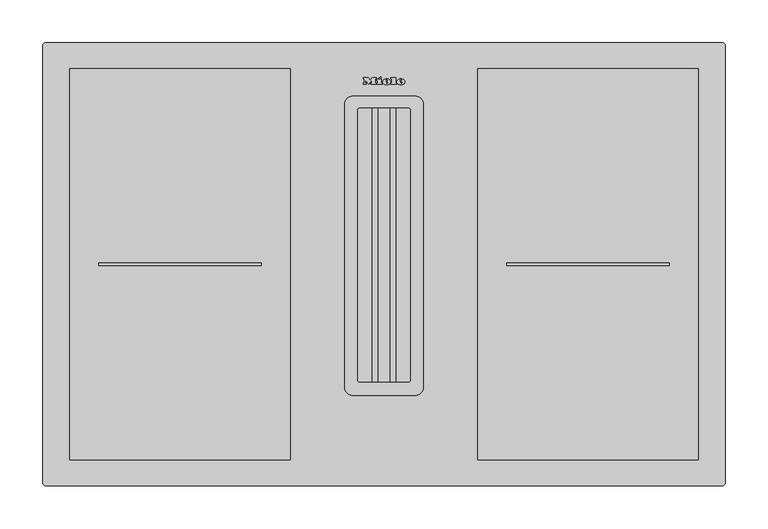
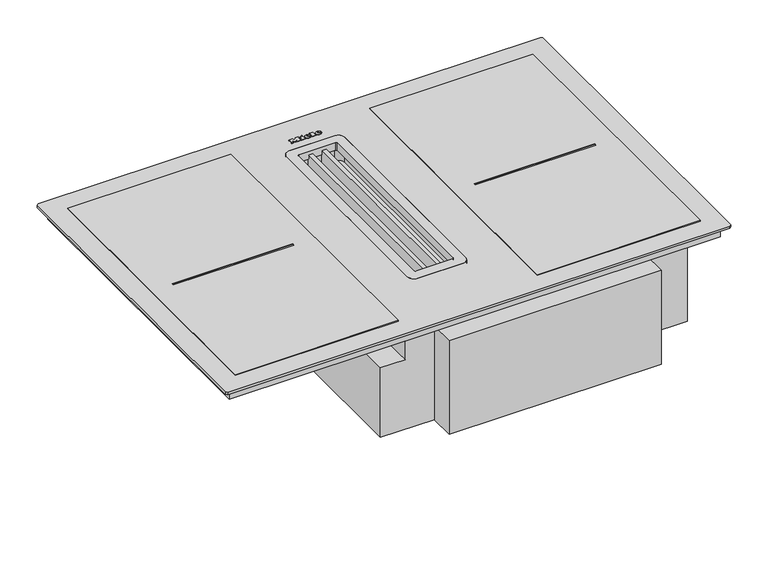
"""IFC4 building model written with IfcOpenShell, lengths in millimetres: proxy geometry, 12524630_F_KMDA7676FL-A : 26767678_F_12524630_KMDA7676FL-A."""

from ifc_helpers import new_model, si_unit, point, frame, frame_2d, origin, origin_with_axes, place, context, project, spatial, polyline, circle_curve, ellipse_curve, trimmed, segment, composite_curve, outline, extrude, source, transform, mapped, element, save
from ifc_brep_helpers import plane_surface, cylinder_surface, revolved_surface, extruded_surface, advanced_brep


def specialty_equipment_c7f275ff(model_context):
    return source(origin(), model_context, "Body", "SolidModel", [
        advanced_brep(
        [(19.088016, 472.896, 5.0), (19.088016, 473.704, 5.0), (24.440016, 473.704, 5.0), (15.128016, 473.704, 5.0), (17.328016, 471.0, 5.0), (24.304016, 472.896, 5.0), (21.888016, 472.896, 5.0), (19.984016, 472.0, 5.0), (19.088016, 474.728, 5.0), (19.088016, 475.6, 5.0), (20.456016, 475.6, 5.0), (20.456016, 474.728, 5.0), (19.088016, 472.896, 4.0), (19.984016, 472.0, 4.0), (21.888016, 472.896, 4.0), (24.304016, 472.896, 4.0), (17.328016, 471.0, 4.0), (15.128016, 473.704, 4.0), (24.440016, 473.704, 4.0), (19.088016, 473.704, 4.0), (19.088016, 474.728, 4.0), (20.456016, 474.728, 4.0), (20.456016, 475.6, 4.0), (19.088016, 475.6, 4.0)],
        [
            (0, 1),
            (1, 2),
            (2, 3, ellipse_curve(frame((19.784016, 473.704, 5.0), z_axis=(0.0, 0.0, 1.0), x_axis=(-1.0, 0.0, 0.0)), 4.656, 3.848)),
            (3, 4, circle_curve(frame((18.2240596, 473.976, 5.0), z_axis=(0.0, 0.0, 1.0), x_axis=(0.0, -1.0, 0.0)), 3.1079688)),
            (4, 5, circle_curve(frame((19.6908096, 476.088, 5.0), z_axis=(0.0, 0.0, 1.0), x_axis=(0.0, -1.0, 0.0)), 5.6098607)),
            (5, 6),
            (6, 7, circle_curve(frame((20.3750748, 473.64, 5.0), z_axis=(0.0, 0.0, -1.0), x_axis=(0.0, -1.0, 0.0)), 1.6859795)),
            (7, 0, circle_curve(frame((19.984016, 472.896, 5.0), z_axis=(0.0, 0.0, -1.0), x_axis=(0.0, -1.0, 0.0)), 0.896)),
            (8, 9),
            (9, 10, circle_curve(frame((19.772016, 475.6, 5.0), z_axis=(0.0, 0.0, -1.0), x_axis=(0.0, -1.0, 0.0)), 0.684)),
            (10, 11),
            (11, 8),
            (12, 13, circle_curve(frame((19.984016, 472.896, 4.0), z_axis=(0.0, 0.0, 1.0), x_axis=(0.0, -1.0, 0.0)), 0.896)),
            (13, 14, circle_curve(frame((20.3750748, 473.64, 4.0), z_axis=(0.0, 0.0, 1.0), x_axis=(0.0, -1.0, 0.0)), 1.6859795)),
            (14, 15),
            (15, 16, circle_curve(frame((19.6908096, 476.088, 4.0), z_axis=(0.0, 0.0, -1.0), x_axis=(0.0, -1.0, 0.0)), 5.6098607)),
            (16, 17, circle_curve(frame((18.2240596, 473.976, 4.0), z_axis=(0.0, 0.0, -1.0), x_axis=(0.0, -1.0, 0.0)), 3.1079688)),
            (17, 18, ellipse_curve(frame((19.784016, 473.704, 4.0), z_axis=(0.0, 0.0, -1.0), x_axis=(-1.0, 0.0, 0.0)), 4.656, 3.848)),
            (18, 19),
            (19, 12),
            (20, 21),
            (21, 22),
            (22, 23, circle_curve(frame((19.772016, 475.6, 4.0), z_axis=(0.0, 0.0, 1.0), x_axis=(0.0, -1.0, 0.0)), 0.684)),
            (23, 20),
            (0, 12),
            (19, 1),
            (18, 2),
            (5, 15),
            (14, 6),
            (17, 3),
            (13, 7),
            (16, 4),
            (8, 20),
            (23, 9),
            (22, 10),
            (21, 11),
        ],
        [
            plane_surface(frame((19.088016, 473.704, 5.0), z_axis=(0.0, 0.0, 1.0), x_axis=(0.0, 1.0, 0.0))),
            plane_surface(frame((19.088016, 473.704, 4.0), z_axis=(0.0, 0.0, -1.0), x_axis=(0.0, -1.0, 0.0))),
            plane_surface(frame((19.088016, 472.896, 5.0), z_axis=(1.0, 0.0, 0.0), x_axis=(0.0, 0.0, -1.0))),
            plane_surface(frame((19.088016, 473.704, 5.0), z_axis=(0.0, -1.0, 0.0), x_axis=(0.0, 0.0, -1.0))),
            plane_surface(frame((24.304016, 472.896, 5.0), z_axis=(0.0, 1.0, 0.0), x_axis=(0.0, 0.0, -1.0))),
            extruded_surface(trimmed(ellipse_curve(frame((19.784016, 473.704, 3.0), z_axis=(0.0, 0.0, 1.0), x_axis=(-1.0, 0.0, 0.0)), 4.656, 3.848), [point((24.440016, 473.704, 3.0))], [point((15.128016, 473.704, 3.0))], True, "CARTESIAN"), (0.0, 0.0, 1.0), 1.0),
            revolved_surface(polyline([(20.3750748, 471.9540205, 4.0), (20.3750748, 471.9540205, 5.0)]), (20.3750748, 473.64, 4.0), (0.0, 0.0, -1.0)),
            revolved_surface(polyline([(19.984016, 472.0, 4.0), (19.984016, 472.0, 5.0)]), (19.984016, 472.896, 4.0), (0.0, 0.0, -1.0)),
            cylinder_surface(frame((18.2240596, 473.976, 4.0), z_axis=(0.0, 0.0, 1.0), x_axis=(0.0, -1.0, 0.0)), 3.1079688),
            cylinder_surface(frame((19.6908096, 476.088, 4.0), z_axis=(0.0, 0.0, 1.0), x_axis=(0.0, -1.0, 0.0)), 5.6098607),
            plane_surface(frame((19.088016, 474.728, 5.0), z_axis=(1.0, 0.0, 0.0), x_axis=(0.0, 0.0, -1.0))),
            revolved_surface(polyline([(19.772016, 474.916, 4.0), (19.772016, 474.916, 5.0)]), (19.772016, 475.6, 4.0), (0.0, 0.0, -1.0)),
            plane_surface(frame((20.456016, 475.6, 5.0), z_axis=(-1.0, 0.0, 0.0), x_axis=(0.0, 0.0, -1.0))),
            plane_surface(frame((20.456016, 474.728, 5.0), z_axis=(0.0, 1.0, 0.0), x_axis=(0.0, 0.0, -1.0))),
        ],
        [
            (0, [[1, 2, 3, 4, 5, 6, 7, 8], [9, 10, 11, 12]]),
            (1, [[13, 14, 15, 16, 17, 18, 19, 20], [21, 22, 23, 24]]),
            (2, [[-1, 25, -20, 26]]),
            (3, [[-2, -26, -19, 27]]),
            (4, [[-6, 28, -15, 29]]),
            (5, [[-3, -27, -18, 30]]),
            (6, [[-7, -29, -14, 31]]),
            (7, [[-8, -31, -13, -25]]),
            (8, [[-4, -30, -17, 32]]),
            (9, [[-5, -32, -16, -28]]),
            (10, [[-9, 33, -24, 34]]),
            (11, [[-10, -34, -23, 35]]),
            (12, [[-11, -35, -22, 36]]),
            (13, [[-12, -36, -21, -33]]),
        ],
    ),
        advanced_brep(
        [(2.392016, 472.896, 5.0), (2.392016, 473.704, 5.0), (7.744016, 473.704, 5.0), (-1.567984, 473.704, 5.0), (0.632016, 471.0, 5.0), (7.608016, 472.896, 5.0), (5.192016, 472.896, 5.0), (3.288016, 472.0, 5.0), (2.392016, 474.728, 5.0), (2.392016, 475.6, 5.0), (3.760016, 475.6, 5.0), (3.760016, 474.728, 5.0), (2.392016, 472.896, 4.0), (3.288016, 472.0, 4.0), (5.192016, 472.896, 4.0), (7.608016, 472.896, 4.0), (0.632016, 471.0, 4.0), (-1.567984, 473.704, 4.0), (7.744016, 473.704, 4.0), (2.392016, 473.704, 4.0), (2.392016, 474.728, 4.0), (3.760016, 474.728, 4.0), (3.760016, 475.6, 4.0), (2.392016, 475.6, 4.0)],
        [
            (0, 1),
            (1, 2),
            (2, 3, ellipse_curve(frame((3.088016, 473.704, 5.0), z_axis=(0.0, 0.0, 1.0), x_axis=(-1.0, 0.0, 0.0)), 4.656, 3.848)),
            (3, 4, circle_curve(frame((1.5280596, 473.976, 5.0), z_axis=(0.0, 0.0, 1.0), x_axis=(0.0, -1.0, 0.0)), 3.1079688)),
            (4, 5, circle_curve(frame((2.9948096, 476.088, 5.0), z_axis=(0.0, 0.0, 1.0), x_axis=(0.0, -1.0, 0.0)), 5.6098607)),
            (5, 6),
            (6, 7, circle_curve(frame((3.6790748, 473.64, 5.0), z_axis=(0.0, 0.0, -1.0), x_axis=(0.0, -1.0, 0.0)), 1.6859795)),
            (7, 0, circle_curve(frame((3.288016, 472.896, 5.0), z_axis=(0.0, 0.0, -1.0), x_axis=(0.0, -1.0, 0.0)), 0.896)),
            (8, 9),
            (9, 10, circle_curve(frame((3.076016, 475.6, 5.0), z_axis=(0.0, 0.0, -1.0), x_axis=(0.0, -1.0, 0.0)), 0.684)),
            (10, 11),
            (11, 8),
            (12, 13, circle_curve(frame((3.288016, 472.896, 4.0), z_axis=(0.0, 0.0, 1.0), x_axis=(0.0, -1.0, 0.0)), 0.896)),
            (13, 14, circle_curve(frame((3.6790748, 473.64, 4.0), z_axis=(0.0, 0.0, 1.0), x_axis=(0.0, -1.0, 0.0)), 1.6859795)),
            (14, 15),
            (15, 16, circle_curve(frame((2.9948096, 476.088, 4.0), z_axis=(0.0, 0.0, -1.0), x_axis=(0.0, -1.0, 0.0)), 5.6098607)),
            (16, 17, circle_curve(frame((1.5280596, 473.976, 4.0), z_axis=(0.0, 0.0, -1.0), x_axis=(0.0, -1.0, 0.0)), 3.1079688)),
            (17, 18, ellipse_curve(frame((3.088016, 473.704, 4.0), z_axis=(0.0, 0.0, -1.0), x_axis=(-1.0, 0.0, 0.0)), 4.656, 3.848)),
            (18, 19),
            (19, 12),
            (20, 21),
            (21, 22),
            (22, 23, circle_curve(frame((3.076016, 475.6, 4.0), z_axis=(0.0, 0.0, 1.0), x_axis=(0.0, -1.0, 0.0)), 0.684)),
            (23, 20),
            (0, 12),
            (19, 1),
            (18, 2),
            (5, 15),
            (14, 6),
            (17, 3),
            (13, 7),
            (16, 4),
            (8, 20),
            (23, 9),
            (22, 10),
            (21, 11),
        ],
        [
            plane_surface(frame((2.392016, 473.704, 5.0), z_axis=(0.0, 0.0, 1.0), x_axis=(0.0, 1.0, 0.0))),
            plane_surface(frame((2.392016, 473.704, 4.0), z_axis=(0.0, 0.0, -1.0), x_axis=(0.0, -1.0, 0.0))),
            plane_surface(frame((2.392016, 472.896, 5.0), z_axis=(1.0, 0.0, 0.0), x_axis=(0.0, 0.0, -1.0))),
            plane_surface(frame((2.392016, 473.704, 5.0), z_axis=(0.0, -1.0, 0.0), x_axis=(0.0, 0.0, -1.0))),
            plane_surface(frame((7.608016, 472.896, 5.0), z_axis=(0.0, 1.0, 0.0), x_axis=(0.0, 0.0, -1.0))),
            extruded_surface(trimmed(ellipse_curve(frame((3.088016, 473.704, 3.0), z_axis=(0.0, 0.0, 1.0), x_axis=(-1.0, 0.0, 0.0)), 4.656, 3.848), [point((7.744016, 473.704, 3.0))], [point((-1.567984, 473.704, 3.0))], True, "CARTESIAN"), (0.0, 0.0, 1.0), 1.0),
            revolved_surface(polyline([(3.6790748, 471.9540205, 4.0), (3.6790748, 471.9540205, 5.0)]), (3.6790748, 473.64, 4.0), (0.0, 0.0, -1.0)),
            revolved_surface(polyline([(3.288016, 472.0, 4.0), (3.288016, 472.0, 5.0)]), (3.288016, 472.896, 4.0), (0.0, 0.0, -1.0)),
            cylinder_surface(frame((1.5280596, 473.976, 4.0), z_axis=(0.0, 0.0, 1.0), x_axis=(0.0, -1.0, 0.0)), 3.1079688),
            cylinder_surface(frame((2.9948096, 476.088, 4.0), z_axis=(0.0, 0.0, 1.0), x_axis=(0.0, -1.0, 0.0)), 5.6098607),
            plane_surface(frame((2.392016, 474.728, 5.0), z_axis=(1.0, 0.0, 0.0), x_axis=(0.0, 0.0, -1.0))),
            revolved_surface(polyline([(3.076016, 474.916, 4.0), (3.076016, 474.916, 5.0)]), (3.076016, 475.6, 4.0), (0.0, 0.0, -1.0)),
            plane_surface(frame((3.760016, 475.6, 5.0), z_axis=(-1.0, 0.0, 0.0), x_axis=(0.0, 0.0, -1.0))),
            plane_surface(frame((3.760016, 474.728, 5.0), z_axis=(0.0, 1.0, 0.0), x_axis=(0.0, 0.0, -1.0))),
        ],
        [
            (0, [[1, 2, 3, 4, 5, 6, 7, 8], [9, 10, 11, 12]]),
            (1, [[13, 14, 15, 16, 17, 18, 19, 20], [21, 22, 23, 24]]),
            (2, [[-1, 25, -20, 26]]),
            (3, [[-2, -26, -19, 27]]),
            (4, [[-6, 28, -15, 29]]),
            (5, [[-3, -27, -18, 30]]),
            (6, [[-7, -29, -14, 31]]),
            (7, [[-8, -31, -13, -25]]),
            (8, [[-4, -30, -17, 32]]),
            (9, [[-5, -32, -16, -28]]),
            (10, [[-9, 33, -24, 34]]),
            (11, [[-10, -34, -23, 35]]),
            (12, [[-11, -35, -22, 36]]),
            (13, [[-12, -36, -21, -33]]),
        ],
    ),
        extrude(outline(polyline([(-6.351984, 478.528), (-3.631984, 479.792), (-3.031984, 478.496), (-5.743984, 477.232), (-6.351984, 478.528)])), frame((0.0, 0.0, 4.0), z_axis=(0.0, 0.0, 1.0), x_axis=(1.0, 0.0, 0.0)), (0.0, 0.0, 1.0), 1.0),
        extrude(outline(polyline([(-8.327984, 477.056), (-2.943984, 477.056), (-2.943984, 472.344), (-2.015984, 472.344), (-2.015984, 471.0), (-8.327984, 471.0), (-8.327984, 472.344), (-7.375984, 472.344), (-7.375984, 475.624), (-8.327984, 475.624), (-8.327984, 477.056)])), frame((0.0, 0.0, 4.0), z_axis=(0.0, 0.0, 1.0), x_axis=(1.0, 0.0, 0.0)), (0.0, 0.0, 1.0), 1.0),
        extrude(outline(polyline([(8.192016, 477.696), (8.192016, 479.0), (13.696016, 479.0), (13.696016, 472.344), (14.680016, 472.344), (14.680016, 471.0), (8.192016, 471.0), (8.192016, 472.344), (9.152016, 472.344), (9.152016, 477.696), (8.192016, 477.696)])), frame((0.0, 0.0, 4.0), z_axis=(0.0, 0.0, 1.0), x_axis=(1.0, 0.0, 0.0)), (0.0, 0.0, 1.0), 1.0),
        extrude(outline(polyline([(-24.271984, 477.696), (-24.271984, 479.0), (-18.695984, 479.0), (-16.351984, 476.0), (-14.015984, 479.0), (-9.143984, 479.0), (-9.143984, 477.696), (-10.159984, 477.696), (-10.159984, 472.344), (-9.143984, 472.344), (-9.143984, 471.0), (-15.527984, 471.0), (-15.527984, 472.344), (-14.543984, 472.344), (-14.543984, 475.8152223), (-18.135984, 471.0), (-21.711984, 475.7471247), (-21.711984, 472.344), (-20.751984, 472.344), (-20.751984, 471.0), (-24.271984, 471.0), (-24.271984, 472.344), (-23.303984, 472.344), (-23.303984, 477.696), (-24.271984, 477.696)])), frame((0.0, 0.0, 4.0), z_axis=(0.0, 0.0, 1.0), x_axis=(1.0, 0.0, 0.0)), (0.0, 0.0, 1.0), 1.0),
        extrude(outline(polyline([(-109.7799963, 489.4478004), (-109.7799963, 30.4999887), (-368.2201181, 30.4999887), (-368.2201181, 489.4478004), (-109.7799963, 489.4478004)]), holes=[polyline([(-143.6799963, 261.5278004), (-334.3201181, 261.5278004), (-334.3201181, 258.3678004), (-143.6799963, 258.3678004), (-143.6799963, 261.5278004)])]), frame((0.0, 0.0, 4.0), z_axis=(0.0, 0.0, 1.0), x_axis=(1.0, 0.0, 0.0)), (0.0, 0.0, 1.0), 1.0),
        extrude(outline(polyline([(109.7799963, 489.4478004), (368.2201181, 489.4478004), (368.2201181, 30.4999887), (109.7799963, 30.4999887), (109.7799963, 489.4478004)]), holes=[polyline([(143.6799963, 261.5278004), (143.6799963, 258.3678004), (334.3201181, 258.3678004), (334.3201181, 261.5278004), (143.6799963, 261.5278004)])]), frame((0.0, 0.0, 4.0), z_axis=(0.0, 0.0, 1.0), x_axis=(1.0, 0.0, 0.0)), (0.0, 0.0, 1.0), 1.0),
        extrude(outline(composite_curve([segment(polyline([(-45.9999987, 115.9999992), (-45.9999987, 447.4999992)]), True, "CONTINUOUS"), segment(trimmed(circle_curve(frame_2d((-35.9999987, 447.4999992)), 10.0), [point((-45.9999987, 447.4999992))], [point((-35.9999987, 457.4999992))], False, "CARTESIAN"), True, "CONTINUOUS"), segment(polyline([(-35.9999987, 457.4999992), (35.9999987, 457.4999992)]), True, "CONTINUOUS"), segment(trimmed(circle_curve(frame_2d((35.9999987, 447.4999992)), 10.0), [point((35.9999987, 457.4999992))], [point((45.9999987, 447.4999992))], False, "CARTESIAN"), True, "CONTINUOUS"), segment(polyline([(45.9999987, 447.4999992), (45.9999987, 115.9999992)]), True, "CONTINUOUS"), segment(trimmed(circle_curve(frame_2d((35.9999987, 115.9999992)), 10.0), [point((45.9999987, 115.9999992))], [point((35.9999987, 105.9999992))], False, "CARTESIAN"), True, "CONTINUOUS"), segment(polyline([(35.9999987, 105.9999992), (-35.9999987, 105.9999992)]), True, "CONTINUOUS"), segment(trimmed(circle_curve(frame_2d((-35.9999987, 115.9999992)), 10.0), [point((-35.9999987, 105.9999992))], [point((-45.9999987, 115.9999992))], False, "CARTESIAN"), True, "CONTINUOUS")], self_intersect=False), holes=[composite_curve([segment(trimmed(circle_curve(frame_2d((-28.688139, 124.1576538)), 2.0), [point((-30.688139, 124.1576538))], [point((-28.688139, 122.1576538))], True, "CARTESIAN"), True, "CONTINUOUS"), segment(polyline([(-28.688139, 122.1576538), (28.688139, 122.1576538)]), True, "CONTINUOUS"), segment(trimmed(circle_curve(frame_2d((28.688139, 124.1576538)), 2.0), [point((28.688139, 122.1576538))], [point((30.688139, 124.1576538))], True, "CARTESIAN"), True, "CONTINUOUS"), segment(polyline([(30.688139, 124.1576538), (30.688139, 440.9186707)]), True, "CONTINUOUS"), segment(trimmed(circle_curve(frame_2d((28.688139, 440.9186707)), 2.0), [point((30.688139, 440.9186707))], [point((28.688139, 442.9186707))], True, "CARTESIAN"), True, "CONTINUOUS"), segment(polyline([(28.688139, 442.9186707), (-28.688139, 442.9186707)]), True, "CONTINUOUS"), segment(trimmed(circle_curve(frame_2d((-28.688139, 440.9186707)), 2.0), [point((-28.688139, 442.9186707))], [point((-30.688139, 440.9186707))], True, "CARTESIAN"), True, "CONTINUOUS"), segment(polyline([(-30.688139, 440.9186707), (-30.688139, 124.1576538)]), True, "CONTINUOUS")], self_intersect=False)]), frame((0.0, 0.0, -8.5215403), z_axis=(0.0, 0.0, 1.0), x_axis=(1.0, 0.0, 0.0)), (0.0, 0.0, 1.0), 12.5215403),
        extrude(outline(polyline([(-343.1216701, 96.3863349), (-343.1216701, 495.0), (-75.402586, 495.0), (-75.402586, 96.3863349), (-343.1216701, 96.3863349)])), frame((0.0, 0.0, -46.5), z_axis=(0.0, 0.0, 1.0), x_axis=(1.0, 0.0, 0.0)), (0.0, 0.0, 1.0), 28.6958097),
        extrude(outline(polyline([(336.1107845, 495.0), (336.1107845, 96.3863349), (104.0, 96.3863349), (104.0, 495.0), (336.1107845, 495.0)])), frame((0.0, 0.0, -46.5), z_axis=(0.0, 0.0, 1.0), x_axis=(1.0, 0.0, 0.0)), (0.0, 0.0, 1.0), 28.6958097),
        extrude(outline(polyline([(388.5, 508.4999986), (388.5, 11.4999971), (-388.5, 11.4999971), (-388.5, 508.4999986), (388.5, 508.4999986)]), holes=[composite_curve([segment(polyline([(45.9999987, 115.9999979), (45.9999987, 447.4999992)]), True, "CONTINUOUS"), segment(trimmed(circle_curve(frame_2d((35.9999987, 447.4999992)), 10.0), [point((45.9999987, 447.4999992))], [point((35.9999987, 457.4999992))], True, "CARTESIAN"), True, "CONTINUOUS"), segment(polyline([(35.9999987, 457.4999992), (-35.9999987, 457.4999992)]), True, "CONTINUOUS"), segment(trimmed(circle_curve(frame_2d((-35.9999987, 447.4999992)), 10.0), [point((-35.9999987, 457.4999992))], [point((-45.9999987, 447.4999992))], True, "CARTESIAN"), True, "CONTINUOUS"), segment(polyline([(-45.9999987, 447.4999992), (-45.9999987, 115.9999979)]), True, "CONTINUOUS"), segment(trimmed(circle_curve(frame_2d((-36.0, 115.9999979)), 9.9999987), [point((-45.9999987, 115.9999979))], [point((-36.0, 105.9999992))], True, "CARTESIAN"), True, "CONTINUOUS"), segment(polyline([(-36.0, 105.9999992), (36.0, 105.9999992)]), True, "CONTINUOUS"), segment(trimmed(circle_curve(frame_2d((36.0, 115.9999979)), 9.9999987), [point((36.0, 105.9999992))], [point((45.9999987, 115.9999979))], True, "CARTESIAN"), True, "CONTINUOUS")], self_intersect=False)]), frame((0.0, 0.0, -17.8041903), z_axis=(0.0, 0.0, 1.0), x_axis=(1.0, 0.0, 0.0)), (0.0, 0.0, 1.0), 17.8041903),
        extrude(outline(polyline([(397.5, 520.0), (400.0, 517.5), (400.0, 2.5), (397.5, 0.0), (-397.5, 0.0), (-400.0, 2.5), (-400.0, 517.5), (-397.5, 520.0), (397.5, 520.0)]), holes=[composite_curve([segment(polyline([(35.9999987, 457.4999992), (-35.9999987, 457.4999992)]), True, "CONTINUOUS"), segment(trimmed(circle_curve(frame_2d((-35.9999987, 447.4999992)), 10.0), [point((-35.9999987, 457.4999992))], [point((-45.9999987, 447.4999992))], True, "CARTESIAN"), True, "CONTINUOUS"), segment(polyline([(-45.9999987, 447.4999992), (-45.9999987, 115.9999979)]), True, "CONTINUOUS"), segment(trimmed(circle_curve(frame_2d((-36.0, 115.9999979)), 9.9999987), [point((-45.9999987, 115.9999979))], [point((-36.0, 105.9999992))], True, "CARTESIAN"), True, "CONTINUOUS"), segment(polyline([(-36.0, 105.9999992), (36.0, 105.9999992)]), True, "CONTINUOUS"), segment(trimmed(circle_curve(frame_2d((36.0, 115.9999979)), 9.9999987), [point((36.0, 105.9999992))], [point((45.9999987, 115.9999979))], True, "CARTESIAN"), True, "CONTINUOUS"), segment(polyline([(45.9999987, 115.9999979), (45.9999987, 447.4999992)]), True, "CONTINUOUS"), segment(trimmed(circle_curve(frame_2d((35.9999987, 447.4999992)), 10.0), [point((45.9999987, 447.4999992))], [point((35.9999987, 457.4999992))], True, "CARTESIAN"), True, "CONTINUOUS")], self_intersect=False)]), origin_with_axes(), (0.0, 0.0, 1.0), 4.0),
        extrude(outline(composite_curve([segment(trimmed(circle_curve(frame_2d((-148.0, 170.0)), 78.9393921), [point((-148.0, 91.0606079))], [point((-148.0, 248.9393921))], False, "CARTESIAN"), True, "CONTINUOUS"), segment(trimmed(circle_curve(frame_2d((-148.0, 170.0)), 78.9393921), [point((-148.0, 248.9393921))], [point((-148.0, 91.0606079))], False, "CARTESIAN"), True, "CONTINUOUS")], self_intersect=False), holes=[composite_curve([segment(trimmed(circle_curve(frame_2d((-148.0, 170.0)), 77.9393921), [point((-148.0, 92.0606079))], [point((-148.0, 247.9393921))], True, "CARTESIAN"), True, "CONTINUOUS"), segment(trimmed(circle_curve(frame_2d((-148.0, 170.0)), 77.9393921), [point((-148.0, 247.9393921))], [point((-148.0, 92.0606079))], True, "CARTESIAN"), True, "CONTINUOUS")], self_intersect=False)]), frame((0.0, 426.3304607, 0.0), z_axis=(0.0, 1.0, 0.0), x_axis=(0.0, 0.0, 1.0)), (0.0, 0.0, 1.0), 17.9123918),
        extrude(outline(polyline([(-13.6048155, 120.1989746), (-13.6048155, 443.7301863), (-7.3951845, 443.7301863), (-7.3951845, 120.1989746), (-13.6048155, 120.1989746)])), frame((0.0, 0.0, -26.3132825), z_axis=(0.0, 0.0, 1.0), x_axis=(1.0, 0.0, 0.0)), (0.0, 0.0, 1.0), 24.7104098),
        extrude(outline(polyline([(13.6048155, 120.1989746), (7.3951845, 120.1989746), (7.3951845, 443.7301863), (13.6048155, 443.7301863), (13.6048155, 120.1989746)])), frame((0.0, 0.0, -26.3132825), z_axis=(0.0, 0.0, 1.0), x_axis=(1.0, 0.0, 0.0)), (0.0, 0.0, 1.0), 24.7104098),
        advanced_brep(
        [(53.6506051, 96.5541828, -54.0), (52.4705494, 96.5541828, -54.0), (52.4705494, 96.5541828, -17.8041903), (-52.4705494, 96.5541828, -17.8041903), (-52.4705494, 96.5541828, -54.0), (-60.8014535, 96.5541828, -54.0), (-60.8014535, 96.5541828, -117.5), (-100.1207428, 96.5541828, -117.5), (-100.1207428, 96.5541828, -234.0), (-15.0, 96.5541828, -234.0), (-15.0, 96.5541828, -77.5), (53.6506051, 96.5541828, -77.5), (-100.1207428, 495.5, -234.0), (-100.1207428, 495.5, -117.5), (-60.8014535, 495.5, -117.5), (-60.8014535, 495.5, -54.0), (-52.4705494, 495.5, -54.0), (-52.4705494, 495.5, -17.8041903), (52.4705494, 495.5, -17.8041903), (52.4705494, 495.5, -54.0), (53.6506051, 495.5, -54.0), (53.6506051, 495.5, -234.0), (53.6506051, 101.0, -77.5), (53.6506051, 101.0, -56.9972547), (53.6506051, 426.3304607, -56.9972547), (53.6506051, 426.3304607, -234.0), (45.9999987, 447.4999992, -17.8041903), (45.9999987, 115.9999979, -17.8041903), (36.0, 105.9999992, -17.8041903), (-36.0, 105.9999992, -17.8041903), (-45.9999987, 115.9999979, -17.8041903), (-45.9999987, 447.4999992, -17.8041903), (-35.9999987, 457.4999992, -17.8041903), (35.9999987, 457.4999992, -17.8041903), (388.5, 101.0, -56.9972547), (321.1107845, 101.0, -77.5), (321.1107845, 101.0, -213.2731462), (388.5, 101.0, -213.2731462), (388.5, 426.3304607, -56.9972547), (388.5, 426.3304607, -213.2731462), (342.3970703, 426.3304607, -213.2731462), (342.3970703, 426.3304607, -234.0), (342.3970703, 388.6357055, -234.0), (380.8010657, 352.3414513, -234.0), (380.8010657, 214.7386902, -234.0), (267.9814513, 109.112153, -234.0), (321.1107845, 109.112153, -234.0), (321.1107845, 55.7496808, -234.0), (-15.0, 55.7496808, -234.0), (380.8010657, 214.7386902, -213.2731462), (380.8010657, 352.3414513, -213.2731462), (342.3970703, 388.6357055, -213.2731462), (321.1107845, 109.112153, -213.2731462), (267.9814513, 109.112153, -213.2731462), (45.9999987, 115.9999979, -38.2608409), (45.9999987, 447.4999992, -38.2608409), (35.9999987, 457.4999992, -38.2608409), (-35.9999987, 457.4999992, -38.2608409), (-45.9999987, 447.4999992, -38.2608409), (-45.9999987, 115.9999979, -38.2608409), (-36.0, 105.9999992, -38.2608409), (36.0, 105.9999992, -38.2608409), (-15.0, 55.7496808, -77.5), (321.1107845, 55.7496808, -77.5)],
        [
            (0, 1),
            (1, 2),
            (2, 3),
            (3, 4),
            (4, 5),
            (5, 6),
            (6, 7),
            (7, 8),
            (8, 9),
            (9, 10),
            (10, 11),
            (11, 0),
            (12, 13),
            (13, 14),
            (14, 15),
            (15, 16),
            (16, 17),
            (17, 18),
            (18, 19),
            (19, 20),
            (20, 21),
            (21, 12),
            (20, 0),
            (11, 22),
            (22, 23),
            (23, 24),
            (24, 25),
            (25, 21),
            (19, 1),
            (18, 2),
            (17, 3),
            (26, 27),
            (27, 28, circle_curve(frame((36.0, 115.9999979, -17.8041903), z_axis=(0.0, 0.0, -1.0), x_axis=(1.0, 0.0, 0.0)), 9.9999987)),
            (28, 29),
            (29, 30, circle_curve(frame((-36.0, 115.9999979, -17.8041903), z_axis=(0.0, 0.0, -1.0), x_axis=(1.0, 0.0, 0.0)), 9.9999987)),
            (30, 31),
            (31, 32, circle_curve(frame((-35.9999987, 447.4999992, -17.8041903), z_axis=(0.0, 0.0, -1.0), x_axis=(1.0, 0.0, 0.0)), 10.0)),
            (32, 33),
            (33, 26, circle_curve(frame((35.9999987, 447.4999992, -17.8041903), z_axis=(0.0, 0.0, -1.0), x_axis=(1.0, 0.0, 0.0)), 10.0)),
            (16, 4),
            (15, 5),
            (14, 6),
            (13, 7),
            (12, 8),
            (34, 23),
            (22, 35),
            (35, 36),
            (36, 37),
            (37, 34),
            (24, 38),
            (38, 39),
            (39, 40),
            (40, 41),
            (41, 25),
            (38, 34),
            (37, 39),
            (41, 42),
            (42, 43, circle_curve(frame((322.8680046, 329.506125, -234.0), z_axis=(0.0, 0.0, -1.0), x_axis=(1.0, 0.0, 0.0)), 62.2711145)),
            (43, 44),
            (44, 45, circle_curve(frame((212.1419224, 281.8188418, -234.0), z_axis=(0.0, 0.0, -1.0), x_axis=(1.0, 0.0, 0.0)), 181.5093753)),
            (45, 46),
            (46, 47),
            (47, 48),
            (48, 9),
            (49, 50),
            (50, 51, circle_curve(frame((322.8680046, 329.506125, -213.2731462), z_axis=(0.0, 0.0, 1.0), x_axis=(1.0, 0.0, 0.0)), 62.2711145)),
            (51, 40),
            (36, 52),
            (52, 53),
            (53, 49, circle_curve(frame((212.1419224, 281.8188418, -213.2731462), z_axis=(0.0, 0.0, 1.0), x_axis=(1.0, 0.0, 0.0)), 181.5093753)),
            (49, 44),
            (43, 50),
            (53, 45),
            (51, 42),
            (54, 55),
            (55, 56, circle_curve(frame((35.9999987, 447.4999992, -38.2608409), z_axis=(0.0, 0.0, 1.0), x_axis=(1.0, 0.0, 0.0)), 10.0)),
            (56, 57),
            (57, 58, circle_curve(frame((-35.9999987, 447.4999992, -38.2608409), z_axis=(0.0, 0.0, 1.0), x_axis=(1.0, 0.0, 0.0)), 10.0)),
            (58, 59),
            (59, 60, circle_curve(frame((-36.0, 115.9999979, -38.2608409), z_axis=(0.0, 0.0, 1.0), x_axis=(1.0, 0.0, 0.0)), 9.9999987)),
            (60, 61),
            (61, 54, circle_curve(frame((36.0, 115.9999979, -38.2608409), z_axis=(0.0, 0.0, 1.0), x_axis=(1.0, 0.0, 0.0)), 9.9999987)),
            (54, 27),
            (26, 55),
            (33, 56),
            (32, 57),
            (31, 58),
            (30, 59),
            (29, 60),
            (28, 61),
            (62, 48),
            (47, 63),
            (63, 62),
            (52, 46),
            (62, 10),
            (35, 63),
        ],
        [
            plane_surface(frame((380.8010657, 96.5541828, -234.0), z_axis=(0.0, -1.0, 0.0), x_axis=(1.0, 0.0, 0.0))),
            plane_surface(frame((380.8010657, 495.5, -234.0), z_axis=(0.0, 1.0, 0.0), x_axis=(-1.0, 0.0, 0.0))),
            plane_surface(frame((53.6506051, 96.5541828, -234.0), z_axis=(1.0, 0.0, 0.0), x_axis=(0.0, 1.0, 0.0))),
            plane_surface(frame((53.6506051, 96.5541828, -54.0), z_axis=(0.0, 0.0, 1.0), x_axis=(0.0, 1.0, 0.0))),
            plane_surface(frame((52.4705494, 96.5541828, -54.0), z_axis=(1.0, 0.0, 0.0), x_axis=(0.0, 1.0, 0.0))),
            plane_surface(frame((52.4705494, 96.5541828, -17.8041903), z_axis=(0.0, 0.0, 1.0), x_axis=(0.0, 1.0, 0.0))),
            plane_surface(frame((-52.4705494, 96.5541828, -17.8041903), z_axis=(-1.0, 0.0, 0.0), x_axis=(0.0, 1.0, 0.0))),
            plane_surface(frame((-52.4705494, 96.5541828, -54.0), z_axis=(0.0, 0.0, 1.0), x_axis=(0.0, 1.0, 0.0))),
            plane_surface(frame((-60.8014535, 96.5541828, -54.0), z_axis=(-1.0, 0.0, 0.0), x_axis=(0.0, 1.0, 0.0))),
            plane_surface(frame((-60.8014535, 96.5541828, -117.5), z_axis=(0.0, 0.0, 1.0), x_axis=(0.0, 1.0, 0.0))),
            plane_surface(frame((-100.1207428, 96.5541828, -117.5), z_axis=(-1.0, 0.0, 0.0), x_axis=(0.0, 1.0, 0.0))),
            plane_surface(frame((53.7285029, 101.0, -56.9972547), z_axis=(0.0, -1.0, 0.0), x_axis=(-1.0, 0.0, 0.0))),
            plane_surface(frame((53.7285029, 426.3304607, -56.9972547), z_axis=(0.0, 1.0, 0.0), x_axis=(1.0, 0.0, 0.0))),
            plane_surface(frame((388.5, 101.0, -234.0), z_axis=(1.0, 0.0, 0.0), x_axis=(0.0, 1.0, 0.0))),
            plane_surface(frame((388.5, 101.0, -56.9972547), z_axis=(0.0, 0.0, 1.0), x_axis=(0.0, 1.0, 0.0))),
            plane_surface(frame((53.6506051, 101.0, -234.0), z_axis=(0.0, 0.0, -1.0), x_axis=(0.0, 1.0, 0.0))),
            plane_surface(frame((342.3970703, 388.6357055, -213.2731462), z_axis=(0.0, 0.0, -1.0), x_axis=(0.0, -1.0, 0.0))),
            plane_surface(frame((380.8010657, 352.3414513, -213.2731462), z_axis=(1.0, 0.0, 0.0), x_axis=(0.0, 0.0, -1.0))),
            cylinder_surface(frame((212.1419224, 281.8188418, -301.7152941), z_axis=(0.0, 0.0, -1.0), x_axis=(1.0, 0.0, 0.0)), 181.5093753),
            plane_surface(frame((342.3970703, 437.085126, -213.2731462), z_axis=(1.0, 0.0, 0.0), x_axis=(0.0, 0.0, -1.0))),
            cylinder_surface(frame((322.8680046, 329.506125, -301.7152941), z_axis=(0.0, 0.0, -1.0), x_axis=(1.0, 0.0, 0.0)), 62.2711145),
            plane_surface(frame((45.9999987, 447.4999992, -38.2608409), z_axis=(0.0, 0.0, 1.0), x_axis=(0.0, -1.0, 0.0))),
            plane_surface(frame((45.9999987, 115.9999979, 48.6771451), z_axis=(-1.0, 0.0, 0.0), x_axis=(0.0, 0.0, -1.0))),
            revolved_surface(polyline([(45.9999987, 447.4999992, -17.8041903), (45.9999987, 447.4999992, -38.2608409)]), (35.9999987, 447.4999992, -38.2608409), (0.0, 0.0, 1.0)),
            plane_surface(frame((35.9999987, 457.4999992, 48.6771451), z_axis=(0.0, -1.0, 0.0), x_axis=(0.0, 0.0, -1.0))),
            revolved_surface(polyline([(-25.9999987, 447.4999992, -17.8041903), (-25.9999987, 447.4999992, -38.2608409)]), (-35.9999987, 447.4999992, -38.2608409), (0.0, 0.0, 1.0)),
            plane_surface(frame((-45.9999987, 447.4999992, 48.6771451), z_axis=(1.0, 0.0, 0.0), x_axis=(0.0, 0.0, -1.0))),
            revolved_surface(polyline([(-26.0000013, 115.9999979, -17.8041903), (-26.0000013, 115.9999979, -38.2608409)]), (-36.0, 115.9999979, -38.2608409), (0.0, 0.0, 1.0)),
            plane_surface(frame((-36.0, 105.9999992, 48.6771451), z_axis=(0.0, 1.0, 0.0), x_axis=(0.0, 0.0, -1.0))),
            revolved_surface(polyline([(45.9999987, 115.9999979, -17.8041903), (45.9999987, 115.9999979, -38.2608409)]), (36.0, 115.9999979, -38.2608409), (0.0, 0.0, 1.0)),
            plane_surface(frame((-15.0, 55.7496808, -92.8266525), z_axis=(0.0, -1.0, 0.0), x_axis=(0.0, 0.0, -1.0))),
            plane_surface(frame((-15.0, 109.112153, -92.8266525), z_axis=(0.0, 1.0, 0.0), x_axis=(0.0, 0.0, 1.0))),
            plane_surface(frame((-15.0, 55.7496808, -77.5), z_axis=(-1.0, 0.0, 0.0), x_axis=(0.0, 1.0, 0.0))),
            plane_surface(frame((321.1107845, 55.7496808, -234.0), z_axis=(1.0, 0.0, 0.0), x_axis=(0.0, 1.0, 0.0))),
            plane_surface(frame((321.1107845, 55.7496808, -77.5), z_axis=(0.0, 0.0, 1.0), x_axis=(0.0, 1.0, 0.0))),
        ],
        [
            (0, [[1, 2, 3, 4, 5, 6, 7, 8, 9, 10, 11, 12]]),
            (1, [[13, 14, 15, 16, 17, 18, 19, 20, 21, 22]]),
            (2, [[-21, 23, -12, 24, 25, 26, 27, 28]]),
            (3, [[-1, -23, -20, 29]]),
            (4, [[-2, -29, -19, 30]]),
            (5, [[-3, -30, -18, 31], [32, 33, 34, 35, 36, 37, 38, 39]]),
            (6, [[-4, -31, -17, 40]]),
            (7, [[-5, -40, -16, 41]]),
            (8, [[-6, -41, -15, 42]]),
            (9, [[-7, -42, -14, 43]]),
            (10, [[-8, -43, -13, 44]]),
            (11, [[45, -25, 46, 47, 48, 49]]),
            (12, [[50, 51, 52, 53, 54, -27]]),
            (13, [[55, -49, 56, -51]]),
            (14, [[-45, -55, -50, -26]]),
            (15, [[-54, 57, 58, 59, 60, 61, 62, 63, 64, -9, -44, -22, -28]]),
            (16, [[65, 66, 67, -52, -56, -48, 68, 69, 70]]),
            (17, [[-65, 71, -59, 72]]),
            (18, [[-71, -70, 73, -60]]),
            (19, [[-67, 74, -57, -53]]),
            (20, [[-66, -72, -58, -74]]),
            (21, [[75, 76, 77, 78, 79, 80, 81, 82]]),
            (22, [[-75, 83, -32, 84]]),
            (23, [[-76, -84, -39, 85]]),
            (24, [[-77, -85, -38, 86]]),
            (25, [[-78, -86, -37, 87]]),
            (26, [[-79, -87, -36, 88]]),
            (27, [[-80, -88, -35, 89]]),
            (28, [[-81, -89, -34, 90]]),
            (29, [[-82, -90, -33, -83]]),
            (30, [[91, -63, 92, 93]]),
            (31, [[-61, -73, -69, 94]]),
            (32, [[-91, 95, -10, -64]]),
            (33, [[-92, -62, -94, -68, -47, 96]]),
            (34, [[-93, -96, -46, -24, -11, -95]]),
        ],
    ),
        extrude(outline(polyline([(7.3772603, 499.0), (0.0, 499.0), (0.0, 500.2557039), (6.1215564, 500.2557039), (6.1215564, 503.5519266), (0.470889, 503.5519266), (0.470889, 504.8076304), (6.1215564, 504.8076304), (6.1215564, 507.7899271), (0.156963, 507.7899271), (0.156963, 509.045631), (7.3772603, 509.045631), (7.3772603, 499.0)])), frame((0.0, 0.0, -160.6999969), z_axis=(0.0, 0.0, 1.0), x_axis=(1.0, 0.0, 0.0)), (0.0, 0.0, 1.0), 1.0),
        extrude(outline(polyline([(-1.8835558, 499.0), (-8.1620752, 499.0), (-8.1620752, 500.2557039), (-3.1392597, 500.2557039), (-3.1392597, 509.045631), (-1.8835558, 509.045631), (-1.8835558, 499.0)])), frame((0.0, 0.0, -160.6999969), z_axis=(0.0, 0.0, 1.0), x_axis=(1.0, 0.0, 0.0)), (0.0, 0.0, 1.0), 1.0),
        extrude(outline(composite_curve([segment(trimmed(circle_curve(frame_2d((0.0, 504.0)), 8.0), [point((-8.0, 504.0))], [point((8.0, 504.0))], False, "CARTESIAN"), True, "CONTINUOUS"), segment(trimmed(circle_curve(frame_2d((0.0, 504.0)), 8.0), [point((8.0, 504.0))], [point((-8.0, 504.0))], False, "CARTESIAN"), True, "CONTINUOUS")], self_intersect=False)), frame((0.0, 0.0, -159.6999969), z_axis=(0.0, 0.0, 1.0), x_axis=(1.0, 0.0, 0.0)), (0.0, 0.0, 1.0), 30.0),
        extrude(outline(polyline([(27.2999992, 495.5), (-37.8499985, 495.5), (-37.8499985, 515.8568134), (27.2999992, 515.8568134), (27.2999992, 495.5)])), frame((0.0, 0.0, -129.6999969), z_axis=(0.0, 0.0, 1.0), x_axis=(1.0, 0.0, 0.0)), (0.0, 0.0, 1.0), 96.8749962),
        extrude(outline(polyline([(-153.0, 178.547125), (-142.954369, 174.5372113), (-142.954369, 173.4679009), (-153.0, 169.4579872), (-153.0, 170.7848149), (-149.8607403, 171.9350593), (-149.8607403, 176.0725055), (-153.0, 177.2202973), (-153.0, 178.547125)]), holes=[polyline([(-148.6050364, 175.6114267), (-148.6050364, 172.3936855), (-146.135322, 173.2986752), (-144.2100729, 174.0025561), (-145.9194979, 174.6279555), (-148.6050364, 175.6114267)])]), frame((0.0, 444.2428525, 0.0), z_axis=(0.0, 1.0, 0.0), x_axis=(0.0, 0.0, 1.0)), (0.0, 0.0, 1.0), 1.0),
        extrude(outline(polyline([(-153.0, 168.1164442), (-142.954369, 168.1164442), (-142.954369, 166.8607403), (-151.7442961, 166.8607403), (-151.7442961, 161.8379248), (-153.0, 161.8379248), (-153.0, 168.1164442)])), frame((0.0, 444.2428525, 0.0), z_axis=(0.0, 1.0, 0.0), x_axis=(0.0, 0.0, 1.0)), (0.0, 0.0, 1.0), 1.0),
    ])


if __name__ == "__main__":
    model = new_model("IFC4")
    model_context = context("Model", 3, world=origin())
    ifc_project = project(units=[si_unit("LENGTHUNIT", "METRE", prefix="MILLI")], contexts=[model_context])
    site = spatial("IfcSite", under=ifc_project)
    building = spatial("IfcBuilding", under=site)
    placement = place(None, origin())
    specialty_equipment_shape = specialty_equipment_c7f275ff(model_context)
    element("IfcBuildingElementProxy", 1, Name="12524630_F_KMDA7676FL-A : 26767678_F_12524630_KMDA7676FL-A", ObjectType="12524630_F_KMDA7676FL-A : 26767678_F_12524630_KMDA7676FL-A", at=placement, inside=building, context=model_context, shape_type="MappedRepresentation", body=[
        mapped(specialty_equipment_shape, transform((0.0, 0.0, 0.0), x_axis=(1.0, 0.0, 0.0), y_axis=(0.0, 1.0, 0.0), z_axis=(0.0, 0.0, 1.0))),
    ])
    save(model, "model.ifc")
